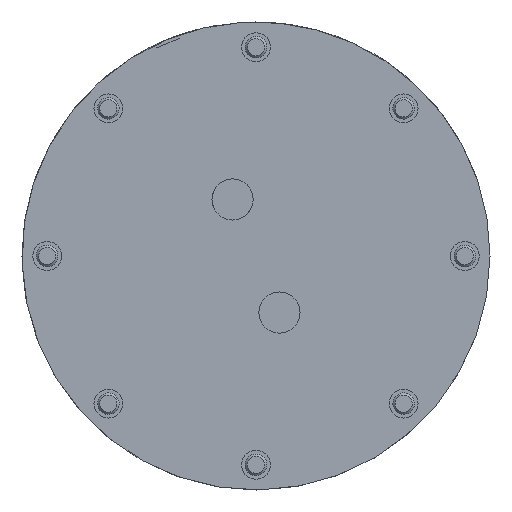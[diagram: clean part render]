
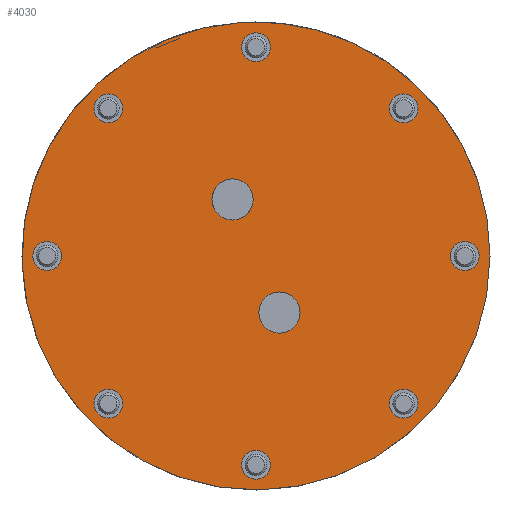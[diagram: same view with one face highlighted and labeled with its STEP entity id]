
A CAD part, left-side view. The second image highlights one B-rep face of the part: STEP entity #4030.
In plain terms, the highlighted planar face has unit normal (-1, 0, 0).
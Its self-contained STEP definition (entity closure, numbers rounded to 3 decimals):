
#164=FACE_BOUND('',#827,.T.);
#165=FACE_BOUND('',#828,.T.);
#166=FACE_BOUND('',#829,.T.);
#167=FACE_BOUND('',#830,.T.);
#168=FACE_BOUND('',#831,.T.);
#169=FACE_BOUND('',#832,.T.);
#170=FACE_BOUND('',#833,.T.);
#171=FACE_BOUND('',#834,.T.);
#172=FACE_BOUND('',#835,.T.);
#173=FACE_BOUND('',#836,.T.);
#316=PLANE('',#4469);
#529=FACE_OUTER_BOUND('',#826,.T.);
#826=EDGE_LOOP('',(#3314,#3315,#3316,#3317));
#827=EDGE_LOOP('',(#3318));
#828=EDGE_LOOP('',(#3319));
#829=EDGE_LOOP('',(#3320));
#830=EDGE_LOOP('',(#3321));
#831=EDGE_LOOP('',(#3322));
#832=EDGE_LOOP('',(#3323));
#833=EDGE_LOOP('',(#3324));
#834=EDGE_LOOP('',(#3325));
#835=EDGE_LOOP('',(#3326));
#836=EDGE_LOOP('',(#3327));
#1103=LINE('',#10173,#1300);
#1104=LINE('',#10174,#1301);
#1300=VECTOR('',#5347,10.);
#1301=VECTOR('',#5348,10.);
#1505=CIRCLE('',#4414,5.723);
#1508=CIRCLE('',#4418,5.723);
#1518=CIRCLE('',#4437,4.);
#1520=CIRCLE('',#4441,4.);
#1522=CIRCLE('',#4445,4.);
#1524=CIRCLE('',#4449,4.);
#1525=CIRCLE('',#4451,4.);
#1527=CIRCLE('',#4455,4.);
#1529=CIRCLE('',#4459,4.);
#1530=CIRCLE('',#4461,4.);
#1536=CIRCLE('',#4470,65.);
#1537=CIRCLE('',#4471,65.);
#1881=VERTEX_POINT('',#10032);
#1885=VERTEX_POINT('',#10057);
#1894=VERTEX_POINT('',#10132);
#1896=VERTEX_POINT('',#10137);
#1898=VERTEX_POINT('',#10181);
#1900=VERTEX_POINT('',#10188);
#1902=VERTEX_POINT('',#10195);
#1904=VERTEX_POINT('',#10202);
#1905=VERTEX_POINT('',#10206);
#1907=VERTEX_POINT('',#10213);
#1909=VERTEX_POINT('',#10220);
#1910=VERTEX_POINT('',#10224);
#1915=VERTEX_POINT('',#10240);
#2361=EDGE_CURVE('',#1881,#1881,#1505,.T.);
#2366=EDGE_CURVE('',#1885,#1885,#1508,.T.);
#2384=EDGE_CURVE('',#1894,#1896,#1103,.T.);
#2385=EDGE_CURVE('',#1894,#1896,#1104,.T.);
#2389=EDGE_CURVE('',#1898,#1898,#1518,.T.);
#2392=EDGE_CURVE('',#1900,#1900,#1520,.T.);
#2395=EDGE_CURVE('',#1902,#1902,#1522,.T.);
#2398=EDGE_CURVE('',#1904,#1904,#1524,.T.);
#2400=EDGE_CURVE('',#1905,#1905,#1525,.T.);
#2403=EDGE_CURVE('',#1907,#1907,#1527,.T.);
#2406=EDGE_CURVE('',#1909,#1909,#1529,.T.);
#2408=EDGE_CURVE('',#1910,#1910,#1530,.T.);
#2415=EDGE_CURVE('',#1896,#1915,#1536,.T.);
#2416=EDGE_CURVE('',#1915,#1896,#1537,.T.);
#3314=ORIENTED_EDGE('',*,*,#2415,.F.);
#3315=ORIENTED_EDGE('',*,*,#2385,.F.);
#3316=ORIENTED_EDGE('',*,*,#2384,.T.);
#3317=ORIENTED_EDGE('',*,*,#2416,.F.);
#3318=ORIENTED_EDGE('',*,*,#2361,.T.);
#3319=ORIENTED_EDGE('',*,*,#2366,.T.);
#3320=ORIENTED_EDGE('',*,*,#2389,.T.);
#3321=ORIENTED_EDGE('',*,*,#2392,.T.);
#3322=ORIENTED_EDGE('',*,*,#2395,.T.);
#3323=ORIENTED_EDGE('',*,*,#2398,.T.);
#3324=ORIENTED_EDGE('',*,*,#2400,.T.);
#3325=ORIENTED_EDGE('',*,*,#2403,.T.);
#3326=ORIENTED_EDGE('',*,*,#2406,.T.);
#3327=ORIENTED_EDGE('',*,*,#2408,.T.);
#4030=ADVANCED_FACE('',(#529,#164,#165,#166,#167,#168,#169,#170,#171,#172,
#173),#316,.T.);
#4414=AXIS2_PLACEMENT_3D('',#10034,#5304,#5305);
#4418=AXIS2_PLACEMENT_3D('',#10059,#5313,#5314);
#4437=AXIS2_PLACEMENT_3D('',#10183,#5359,#5360);
#4441=AXIS2_PLACEMENT_3D('',#10190,#5368,#5369);
#4445=AXIS2_PLACEMENT_3D('',#10197,#5377,#5378);
#4449=AXIS2_PLACEMENT_3D('',#10204,#5386,#5387);
#4451=AXIS2_PLACEMENT_3D('',#10208,#5391,#5392);
#4455=AXIS2_PLACEMENT_3D('',#10215,#5400,#5401);
#4459=AXIS2_PLACEMENT_3D('',#10222,#5409,#5410);
#4461=AXIS2_PLACEMENT_3D('',#10226,#5414,#5415);
#4469=AXIS2_PLACEMENT_3D('',#10239,#5431,#5432);
#4470=AXIS2_PLACEMENT_3D('',#10241,#5433,#5434);
#4471=AXIS2_PLACEMENT_3D('',#10242,#5435,#5436);
#5304=DIRECTION('center_axis',(1.,0.,0.));
#5305=DIRECTION('ref_axis',(0.,0.,
1.));
#5313=DIRECTION('center_axis',(1.,0.,0.));
#5314=DIRECTION('ref_axis',(0.,0.,
1.));
#5347=DIRECTION('',(0.,0.383,0.924));
#5348=DIRECTION('',(0.,0.383,0.924));
#5359=DIRECTION('center_axis',(1.,0.,0.));
#5360=DIRECTION('ref_axis',(0.,0.,
1.));
#5368=DIRECTION('center_axis',(1.,0.,0.));
#5369=DIRECTION('ref_axis',(0.,0.,
1.));
#5377=DIRECTION('center_axis',(1.,0.,0.));
#5378=DIRECTION('ref_axis',(0.,0.,
1.));
#5386=DIRECTION('center_axis',(1.,0.,0.));
#5387=DIRECTION('ref_axis',(0.,0.,
1.));
#5391=DIRECTION('center_axis',(1.,0.,0.));
#5392=DIRECTION('ref_axis',(0.,0.,
1.));
#5400=DIRECTION('center_axis',(1.,0.,0.));
#5401=DIRECTION('ref_axis',(0.,0.,
1.));
#5409=DIRECTION('center_axis',(1.,0.,0.));
#5410=DIRECTION('ref_axis',(0.,0.,
1.));
#5414=DIRECTION('center_axis',(1.,0.,0.));
#5415=DIRECTION('ref_axis',(0.,0.,
1.));
#5431=DIRECTION('center_axis',(-1.,0.,0.));
#5432=DIRECTION('ref_axis',(0.,0.,
1.));
#5433=DIRECTION('center_axis',(1.,0.,0.));
#5434=DIRECTION('ref_axis',(0.,1.,0.));
#5435=DIRECTION('center_axis',(1.,0.,0.));
#5436=DIRECTION('ref_axis',(0.,1.,0.));
#10032=CARTESIAN_POINT('',(-97.9,6.506,9.983));
#10034=CARTESIAN_POINT('Origin',(-97.9,6.506,15.706));
#10057=CARTESIAN_POINT('',(-97.9,-6.506,-21.428));
#10059=CARTESIAN_POINT('Origin',(-97.9,-6.506,-15.706));
#10132=CARTESIAN_POINT('',(-97.9,24.492,59.128));
#10137=CARTESIAN_POINT('',(-97.9,24.874,60.052));
#10173=CARTESIAN_POINT('',(-97.9,24.683,59.59));
#10174=CARTESIAN_POINT('',(-97.9,24.683,59.59));
#10181=CARTESIAN_POINT('',(-97.9,-41.012,-45.012));
#10183=CARTESIAN_POINT('Origin',(-97.9,-41.012,-41.012));
#10188=CARTESIAN_POINT('',(-97.9,-58.,-4.));
#10190=CARTESIAN_POINT('Origin',(-97.9,-58.,0.));
#10195=CARTESIAN_POINT('',(-97.9,58.,-4.));
#10197=CARTESIAN_POINT('Origin',(-97.9,58.,0.));
#10202=CARTESIAN_POINT('',(-97.9,41.012,37.012));
#10204=CARTESIAN_POINT('Origin',(-97.9,41.012,41.012));
#10206=CARTESIAN_POINT('',(-97.9,0.,54.));
#10208=CARTESIAN_POINT('Origin',(-97.9,0.,58.));
#10213=CARTESIAN_POINT('',(-97.9,-41.012,37.012));
#10215=CARTESIAN_POINT('Origin',(-97.9,-41.012,41.012));
#10220=CARTESIAN_POINT('',(-97.9,0.,-62.));
#10222=CARTESIAN_POINT('Origin',(-97.9,0.,-58.));
#10224=CARTESIAN_POINT('',(-97.9,41.012,-45.012));
#10226=CARTESIAN_POINT('Origin',(-97.9,41.012,-41.012));
#10239=CARTESIAN_POINT('Origin',(-97.9,32.5,0.));
#10240=CARTESIAN_POINT('',(-97.9,-65.,0.));
#10241=CARTESIAN_POINT('Origin',(-97.9,0.,0.));
#10242=CARTESIAN_POINT('Origin',(-97.9,0.,0.));
